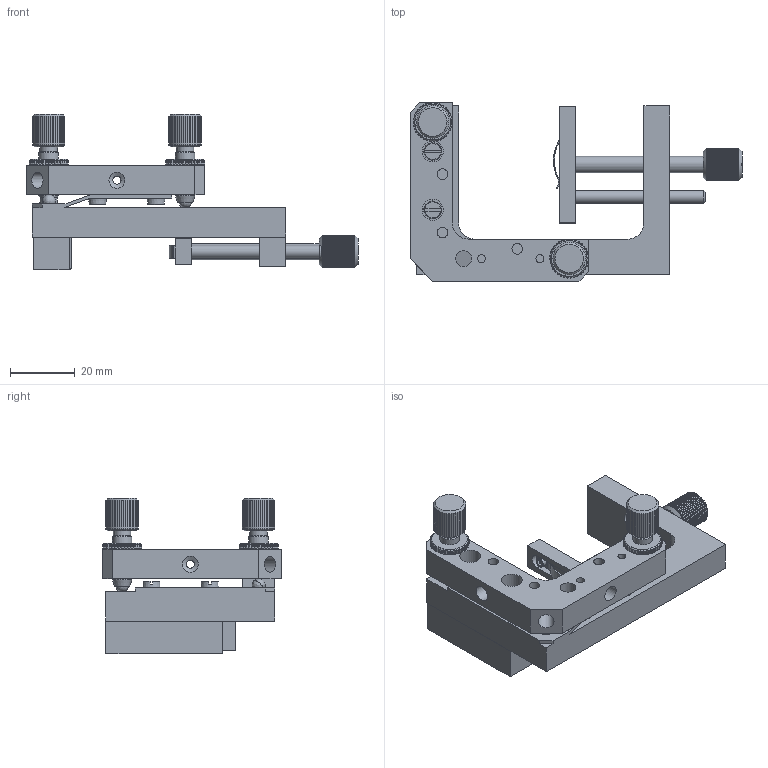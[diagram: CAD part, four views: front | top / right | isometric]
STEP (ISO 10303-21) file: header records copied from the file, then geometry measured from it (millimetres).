
FILE_DESCRIPTION((''),'2;1');
FILE_NAME('D:\Ramunas\schemos\05\5OM37-50TPF\STEP\5OM37-50TPF-9S7C.STEP','2013-05-24T11:30:11',('Ramunas.Z'),(''),'Autodesk Inventor 2013','Autodesk Inventor 2013','');
FILE_SCHEMA(('AUTOMOTIVE_DESIGN { 1 0 10303 214 1 1 1 1 }'));
Length unit declared in the file: millimetre
Products named in the file (1): 5OM37-50TPF-9S7C
Bounding box: 102.18 x 55 x 47.72 mm (x, y, z)
Volume: 36940.4 mm3; surface area: 20084.9 mm2
Topology: 1 solids, 13 shells, 1219 faces, 3277 edges, 2111 vertices
Faces by surface type: plane 866, cylinder 284, cone 50, torus 15, sphere 3, bspline 1
Full cylindrical faces by diameter (mm): 1.221 x1, 1.567 x1, 1.6 x1, 1.8 x1, 2.459 x6, 2.5 x3, 3 x5, 3.242 x3, 3.5 x4, 3.8 x1, 4 x4, 4.134 x1, 4.5 x1, 4.917 x4, 5 x2, 5.4 x2, 5.5 x6, 6 x8, 6.5 x4, 8.917 x2
Entity records: 37145 total; most frequent: CARTESIAN_POINT 7854, ORIENTED_EDGE 6208, DIRECTION 6014, EDGE_CURVE 3104, AXIS2_PLACEMENT_3D 2245, VERTEX_POINT 2058, VECTOR 1524, LINE 1524
